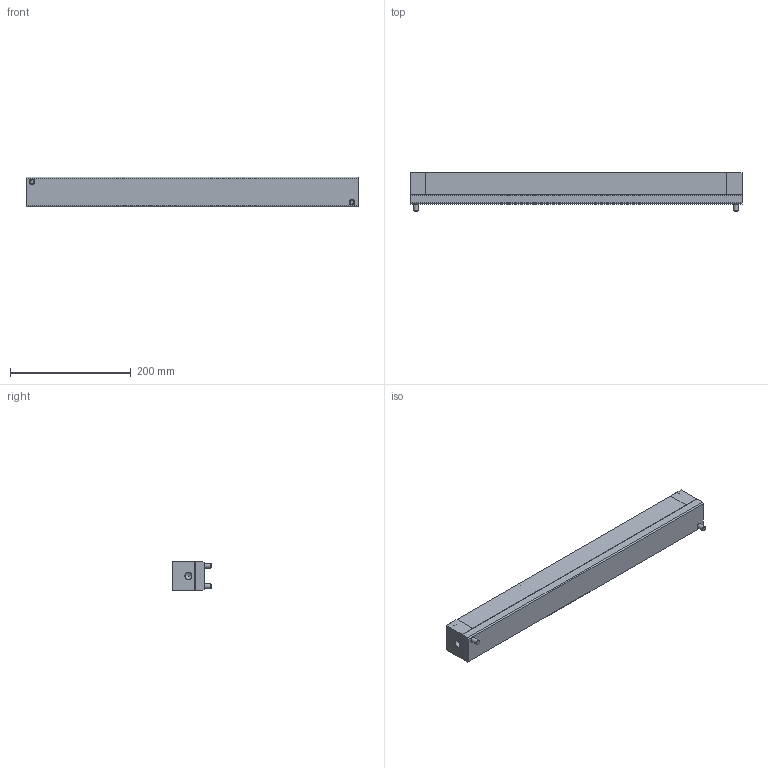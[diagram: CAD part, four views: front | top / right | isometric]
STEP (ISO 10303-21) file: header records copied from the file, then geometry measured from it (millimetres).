
FILE_DESCRIPTION( ( 'STEP AP214' ), '1' );
FILE_NAME( 'Z:/01-DesignData/標準品図面/★Web／カタログ用データ(型式別 3点Set)/069-ISR50S 系/ISR-50S-550-A_0_.stp', '2022-05-10T00:21:51', ( 'License CC BY-ND 4.0' ), ( 'CADENAS' ), ' ', 'PARTsolutions', ' ' );
FILE_SCHEMA( ( 'AUTOMOTIVE_DESIGN { 1 0 10303 214 1 1 1 1 }' ) );
Length unit declared in the file: millimetre
Products named in the file (5): ISR-50S-550-A(0); _ISR-50S-550-A-Body; _ISR-50S-550-A-Box; _ISR-50S-550-A(0)-Ball; _ISR-50S-550-A-screw
Assembly tree (14 placements, depth 2):
  ISR-50S-550-A(0)
    _ISR-50S-550-A-Body
    _ISR-50S-550-A-Box
    _ISR-50S-550-A(0)-Ball  x10
    _ISR-50S-550-A-screw  x2
Bounding box: 550 x 64 x 49.5 mm (x, y, z)
Volume: 1333248.1 mm3; surface area: 302837.1 mm2
Topology: 14 solids, 14 shells, 638 faces, 1342 edges, 830 vertices
Faces by surface type: plane 454, cylinder 102, cone 48, torus 24, sphere 10
Full cylindrical faces by diameter (mm): 8 x2, 8.5 x20, 9 x2, 9.5 x20, 13 x4, 14.5 x4, 33 x10, 38.5 x10, 39 x10, 42 x20
Entity records: 17328 total; most frequent: DIRECTION 2344, CARTESIAN_POINT 2167, ORIENTED_EDGE 1924, EDGE_CURVE 962, AXIS2_PLACEMENT_3D 848, EDGE_LOOP 718, VERTEX_POINT 671, LINE 648
